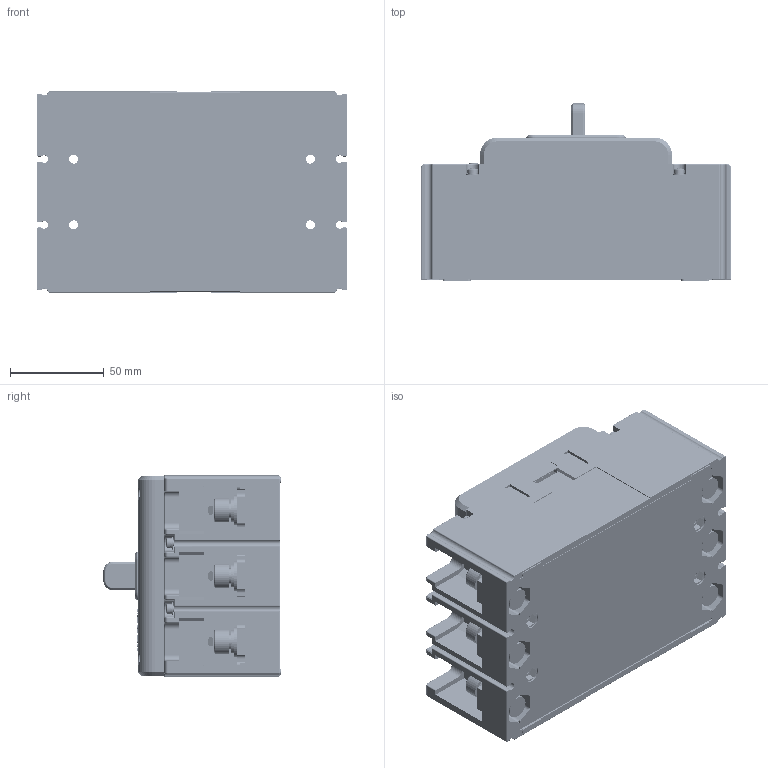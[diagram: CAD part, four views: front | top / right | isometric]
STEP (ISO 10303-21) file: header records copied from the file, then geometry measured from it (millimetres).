
FILE_DESCRIPTION((''),'2;1');
FILE_NAME('2256020100_ASM','2017-11-20T',('yan.shen'),(''),'PRO/ENGINEER BY PARAMETRIC TECHNOLOGY CORPORATION, 2015440','PRO/ENGINEER BY PARAMETRIC TECHNOLOGY CORPORATION, 2015440','');
FILE_SCHEMA(('CONFIG_CONTROL_DESIGN'));
Products named in the file (36): JZ-5DLX_024_265; GB_T809-M3X12; 5024026500_ASM; 5551070200_ASM; 6760009200_ASM; 8751002200; 8750030100; 8253057300; 8865077900_AF0; 8865078000_AF0; 5253022400_ASM; MG-5DLX_315_432; GB_T809-M3X8; 5315043200_ASM; 8253003500; 8282018100_AF0; 8315057900; 7010100305R01_GB_T823_M3X10; 7090300201_GB_T93_3; GB_T97_4_3; 5850007700_ASM; 5315043400_ASM; GB_T9074_4-M3X30; 8742102700; GB_T70_1-M8X20; 7090200704_GB_T97_1_8; 7090370701K_GB_T93_8; 5850004100_AF0_ASM; 5850004100_AF1_ASM; 5850004100_AF2_ASM; 5850004100_AF3_ASM; 5850004100_AF4_ASM; 5850004100_AF5_ASM; 8551033400; 8585064000; 2256020100_ASM
Assembly tree (80 placements, depth 4):
  2256020100_ASM
    6760009200_ASM
      5024026500_ASM
        JZ-5DLX_024_265
        GB_T809-M3X12  x8
      5551070200_ASM  x3
    8751002200  x3
    8750030100  x3
    5253022400_ASM
      8253057300
      8865077900_AF0
      8865078000_AF0
    5315043400_ASM
      5315043200_ASM
        MG-5DLX_315_432
        GB_T809-M3X8  x4
      8253003500
      8282018100_AF0
      8315057900
      5850007700_ASM  x4
        7010100305R01_GB_T823_M3X10
        7090300201_GB_T93_3
        GB_T97_4_3
    GB_T9074_4-M3X30  x8
    8742102700
    5850004100_AF0_ASM
      GB_T70_1-M8X20
      7090200704_GB_T97_1_8
      7090370701K_GB_T93_8
    5850004100_AF1_ASM
      GB_T70_1-M8X20
      7090200704_GB_T97_1_8
      7090370701K_GB_T93_8
    5850004100_AF2_ASM
      GB_T70_1-M8X20
      7090200704_GB_T97_1_8
      7090370701K_GB_T93_8
    5850004100_AF3_ASM
      GB_T70_1-M8X20
      7090200704_GB_T97_1_8
      7090370701K_GB_T93_8
    5850004100_AF4_ASM
      GB_T70_1-M8X20
      7090200704_GB_T97_1_8
      7090370701K_GB_T93_8
    5850004100_AF5_ASM
      GB_T70_1-M8X20
      7090200704_GB_T97_1_8
      7090370701K_GB_T93_8
    8551033400  x3
    8585064000  x3
Bounding box: 165 x 94.38 x 107 mm (x, y, z)
Volume: 469633.6 mm3; surface area: 317034.4 mm2
Topology: 71 solids, 113 shells, 5297 faces, 13840 edges, 8888 vertices
Faces by surface type: plane 2779, cylinder 1789, cone 192, extrusion 188, torus 151, bspline 105, sphere 93
Entity records: 141825 total; most frequent: CARTESIAN_POINT 37849, ORIENTED_EDGE 21824, DIRECTION 21125, EDGE_CURVE 10930, VECTOR 7405, LINE 7217, VERTEX_POINT 7035, AXIS2_PLACEMENT_3D 6860
